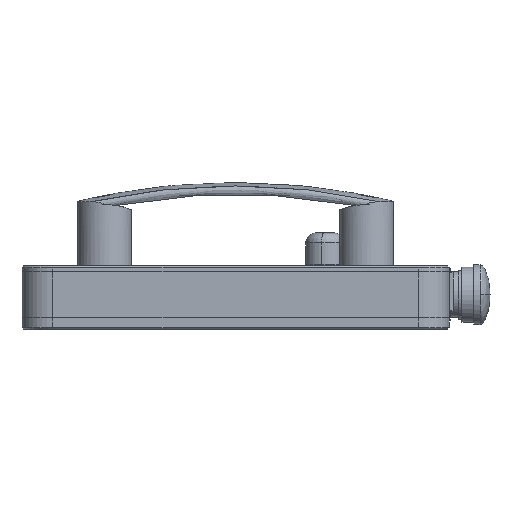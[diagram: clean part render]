
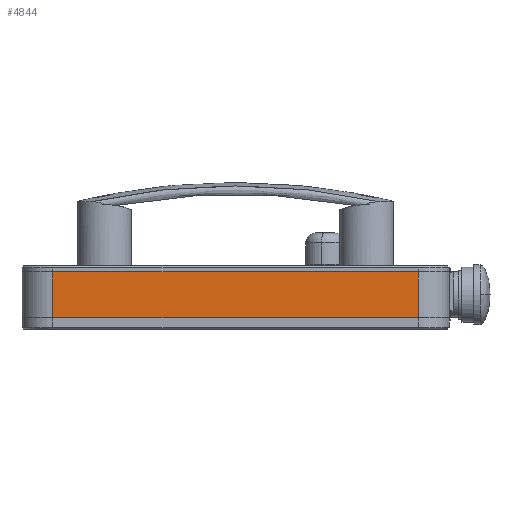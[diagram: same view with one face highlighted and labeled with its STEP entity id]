
A CAD part, left-side view. The second image highlights one B-rep face of the part: STEP entity #4844.
In plain terms, the highlighted planar face has unit normal (-1, 0, 0).
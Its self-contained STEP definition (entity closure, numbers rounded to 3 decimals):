
#132 = CARTESIAN_POINT ( 'NONE',  ( -169., -107.5, 6. ) ) ;
#147 = VECTOR ( 'NONE', #11453, 1000. ) ;
#213 = CARTESIAN_POINT ( 'NONE',  ( -169., 92., 29. ) ) ;
#564 = VECTOR ( 'NONE', #14154, 1000. ) ;
#1643 = PLANE ( 'NONE',  #6860 ) ;
#1703 = DIRECTION ( 'NONE',  ( 1., 0., 0. ) ) ;
#3033 = CARTESIAN_POINT ( 'NONE',  ( -169., -107.5, 29. ) ) ;
#3234 = EDGE_CURVE ( 'NONE', #13709, #11848, #7901, .T. ) ;
#3525 = CARTESIAN_POINT ( 'NONE',  ( -169., -92., 6. ) ) ;
#3533 = LINE ( 'NONE', #213, #147 ) ;
#4173 = VERTEX_POINT ( 'NONE', #5346 ) ;
#4269 = LINE ( 'NONE', #132, #13033 ) ;
#4844 = ADVANCED_FACE ( 'NONE', ( #6075 ), #1643, .F. ) ;
#5346 = CARTESIAN_POINT ( 'NONE',  ( -169., 92., 6. ) ) ;
#5383 = EDGE_CURVE ( 'NONE', #4173, #13709, #4269, .T. ) ;
#6011 = VECTOR ( 'NONE', #6188, 1000. ) ;
#6075 = FACE_OUTER_BOUND ( 'NONE', #7442, .T. ) ;
#6139 = CARTESIAN_POINT ( 'NONE',  ( -169., -92., 29. ) ) ;
#6188 = DIRECTION ( 'NONE',  ( 0., -1., 0. ) ) ;
#6310 = DIRECTION ( 'NONE',  ( 0., 1., 0. ) ) ;
#6342 = ORIENTED_EDGE ( 'NONE', *, *, #10274, .F. ) ;
#6860 = AXIS2_PLACEMENT_3D ( 'NONE', #3033, #1703, #6310 ) ;
#6897 = ORIENTED_EDGE ( 'NONE', *, *, #5383, .T. ) ;
#7442 = EDGE_LOOP ( 'NONE', ( #6342, #11161, #6897, #7757 ) ) ;
#7757 = ORIENTED_EDGE ( 'NONE', *, *, #3234, .T. ) ;
#7901 = LINE ( 'NONE', #6139, #564 ) ;
#8155 = EDGE_CURVE ( 'NONE', #10965, #4173, #3533, .T. ) ;
#8282 = DIRECTION ( 'NONE',  ( 0., -1., 0. ) ) ;
#9043 = LINE ( 'NONE', #9627, #6011 ) ;
#9435 = CARTESIAN_POINT ( 'NONE',  ( -169., -92., 29. ) ) ;
#9627 = CARTESIAN_POINT ( 'NONE',  ( -169., -107.5, 29. ) ) ;
#10274 = EDGE_CURVE ( 'NONE', #10965, #11848, #9043, .T. ) ;
#10514 = CARTESIAN_POINT ( 'NONE',  ( -169., 92., 29. ) ) ;
#10965 = VERTEX_POINT ( 'NONE', #10514 ) ;
#11161 = ORIENTED_EDGE ( 'NONE', *, *, #8155, .T. ) ;
#11453 = DIRECTION ( 'NONE',  ( 0., 0., -1. ) ) ;
#11848 = VERTEX_POINT ( 'NONE', #9435 ) ;
#13033 = VECTOR ( 'NONE', #8282, 1000. ) ;
#13709 = VERTEX_POINT ( 'NONE', #3525 ) ;
#14154 = DIRECTION ( 'NONE',  ( 0., 0., 1. ) ) ;
